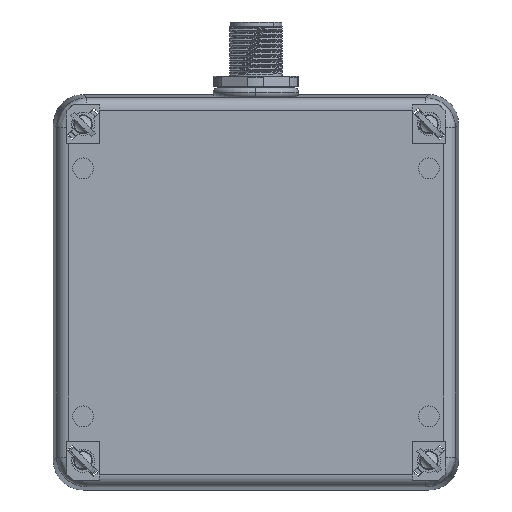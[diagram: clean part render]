
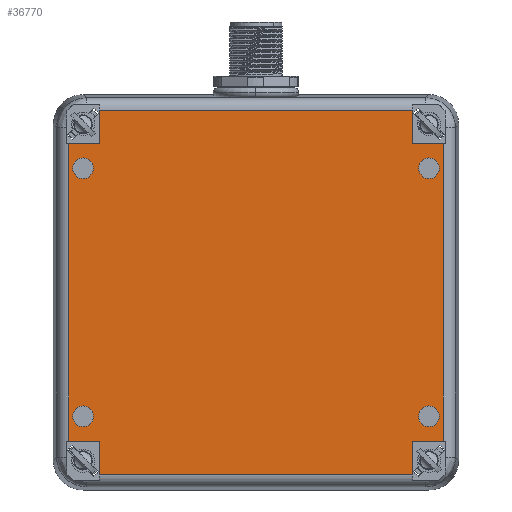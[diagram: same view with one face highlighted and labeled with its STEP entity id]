
A CAD part, front view. The second image highlights one B-rep face of the part: STEP entity #36770.
In plain terms, the highlighted planar face has unit normal (0, -1, 0).
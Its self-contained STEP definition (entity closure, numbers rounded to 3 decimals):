
#201=DIRECTION('',(1.,0.,0.));
#202=VECTOR('',#201,6.095);
#203=CARTESIAN_POINT('',(-37.845,-40.,30.1));
#204=LINE('',#203,#202);
#208=DIRECTION('',(0.,0.,1.));
#209=VECTOR('',#208,6.745);
#210=CARTESIAN_POINT('',(-31.75,-40.,30.1));
#211=LINE('',#210,#209);
#215=DIRECTION('',(-1.,0.,0.));
#216=VECTOR('',#215,63.5);
#217=CARTESIAN_POINT('',(31.75,-40.,36.845));
#218=LINE('',#217,#216);
#222=DIRECTION('',(0.,0.,-1.));
#223=VECTOR('',#222,6.745);
#224=CARTESIAN_POINT('',(31.75,-40.,36.845));
#225=LINE('',#224,#223);
#229=DIRECTION('',(1.,0.,0.));
#230=VECTOR('',#229,6.095);
#231=CARTESIAN_POINT('',(31.75,-40.,30.1));
#232=LINE('',#231,#230);
#236=DIRECTION('',(0.,0.,1.));
#237=VECTOR('',#236,60.2);
#238=CARTESIAN_POINT('',(37.845,-40.,-30.1));
#239=LINE('',#238,#237);
#243=DIRECTION('',(-1.,0.,0.));
#244=VECTOR('',#243,6.095);
#245=CARTESIAN_POINT('',(37.845,-40.,-30.1));
#246=LINE('',#245,#244);
#250=DIRECTION('',(0.,0.,-1.));
#251=VECTOR('',#250,6.745);
#252=CARTESIAN_POINT('',(31.75,-40.,-30.1));
#253=LINE('',#252,#251);
#257=DIRECTION('',(1.,0.,0.));
#258=VECTOR('',#257,63.5);
#259=CARTESIAN_POINT('',(-31.75,-40.,-36.845));
#260=LINE('',#259,#258);
#264=DIRECTION('',(0.,0.,1.));
#265=VECTOR('',#264,6.745);
#266=CARTESIAN_POINT('',(-31.75,-40.,-36.845));
#267=LINE('',#266,#265);
#271=DIRECTION('',(-1.,0.,0.));
#272=VECTOR('',#271,6.095);
#273=CARTESIAN_POINT('',(-31.75,-40.,-30.1));
#274=LINE('',#273,#272);
#278=DIRECTION('',(0.,0.,-1.));
#279=VECTOR('',#278,60.2);
#280=CARTESIAN_POINT('',(-37.845,-40.,30.1));
#281=LINE('',#280,#279);
#285=CARTESIAN_POINT('',(35.,-40.,-25.1));
#286=DIRECTION('',(0.,-1.,0.));
#287=DIRECTION('',(0.,0.,-1.));
#288=AXIS2_PLACEMENT_3D('',#285,#286,#287);
#293=CARTESIAN_POINT('',(35.,-40.,-25.1));
#294=DIRECTION('',(0.,-1.,0.));
#295=DIRECTION('',(0.,0.,1.));
#296=AXIS2_PLACEMENT_3D('',#293,#294,#295);
#301=CARTESIAN_POINT('',(-35.,-40.,25.1));
#302=DIRECTION('',(0.,-1.,0.));
#303=DIRECTION('',(0.,0.,-1.));
#304=AXIS2_PLACEMENT_3D('',#301,#302,#303);
#309=CARTESIAN_POINT('',(-35.,-40.,25.1));
#310=DIRECTION('',(0.,-1.,0.));
#311=DIRECTION('',(0.,0.,1.));
#312=AXIS2_PLACEMENT_3D('',#309,#310,#311);
#317=CARTESIAN_POINT('',(-35.,-40.,-25.1));
#318=DIRECTION('',(0.,-1.,0.));
#319=DIRECTION('',(0.,0.,-1.));
#320=AXIS2_PLACEMENT_3D('',#317,#318,#319);
#325=CARTESIAN_POINT('',(-35.,-40.,-25.1));
#326=DIRECTION('',(0.,-1.,0.));
#327=DIRECTION('',(0.,0.,1.));
#328=AXIS2_PLACEMENT_3D('',#325,#326,#327);
#333=CARTESIAN_POINT('',(35.,-40.,25.1));
#334=DIRECTION('',(0.,-1.,0.));
#335=DIRECTION('',(0.,0.,-1.));
#336=AXIS2_PLACEMENT_3D('',#333,#334,#335);
#341=CARTESIAN_POINT('',(35.,-40.,25.1));
#342=DIRECTION('',(0.,-1.,0.));
#343=DIRECTION('',(0.,0.,1.));
#344=AXIS2_PLACEMENT_3D('',#341,#342,#343);
#33460=CARTESIAN_POINT('',(35.,-40.,-27.2));
#33461=CARTESIAN_POINT('',(35.,-40.,-23.));
#33462=VERTEX_POINT('',#33460);
#33463=VERTEX_POINT('',#33461);
#33464=CARTESIAN_POINT('',(-35.,-40.,23.));
#33465=CARTESIAN_POINT('',(-35.,-40.,27.2));
#33466=VERTEX_POINT('',#33464);
#33467=VERTEX_POINT('',#33465);
#33628=CARTESIAN_POINT('',(-35.,-40.,-27.2));
#33629=CARTESIAN_POINT('',(-35.,-40.,-23.));
#33630=VERTEX_POINT('',#33628);
#33631=VERTEX_POINT('',#33629);
#33632=CARTESIAN_POINT('',(35.,-40.,23.));
#33633=CARTESIAN_POINT('',(35.,-40.,27.2));
#33634=VERTEX_POINT('',#33632);
#33635=VERTEX_POINT('',#33633);
#33712=CARTESIAN_POINT('',(-37.845,-40.,30.1));
#33713=CARTESIAN_POINT('',(-31.75,-40.,30.1));
#33714=VERTEX_POINT('',#33712);
#33715=VERTEX_POINT('',#33713);
#33716=CARTESIAN_POINT('',(-31.75,-40.,36.845));
#33717=VERTEX_POINT('',#33716);
#33756=CARTESIAN_POINT('',(31.75,-40.,36.845));
#33757=CARTESIAN_POINT('',(31.75,-40.,30.1));
#33758=VERTEX_POINT('',#33756);
#33759=VERTEX_POINT('',#33757);
#33760=CARTESIAN_POINT('',(37.845,-40.,30.1));
#33761=VERTEX_POINT('',#33760);
#33762=CARTESIAN_POINT('',(-31.75,-40.,-36.845));
#33763=CARTESIAN_POINT('',(-31.75,-40.,-30.1));
#33764=VERTEX_POINT('',#33762);
#33765=VERTEX_POINT('',#33763);
#33766=CARTESIAN_POINT('',(-37.845,-40.,-30.1));
#33767=VERTEX_POINT('',#33766);
#33768=CARTESIAN_POINT('',(37.845,-40.,-30.1));
#33769=CARTESIAN_POINT('',(31.75,-40.,-30.1));
#33770=VERTEX_POINT('',#33768);
#33771=VERTEX_POINT('',#33769);
#33772=CARTESIAN_POINT('',(31.75,-40.,-36.845));
#33773=VERTEX_POINT('',#33772);
#36715=CARTESIAN_POINT('',(0.,-40.,0.));
#36716=DIRECTION('',(0.,1.,0.));
#36717=DIRECTION('',(1.,0.,0.));
#36718=AXIS2_PLACEMENT_3D('',#36715,#36716,#36717);
#36719=PLANE('',#36718);
#36721=ORIENTED_EDGE('',*,*,#36720,.T.);
#36723=ORIENTED_EDGE('',*,*,#36722,.T.);
#36725=ORIENTED_EDGE('',*,*,#36724,.F.);
#36727=ORIENTED_EDGE('',*,*,#36726,.T.);
#36729=ORIENTED_EDGE('',*,*,#36728,.T.);
#36731=ORIENTED_EDGE('',*,*,#36730,.F.);
#36733=ORIENTED_EDGE('',*,*,#36732,.T.);
#36735=ORIENTED_EDGE('',*,*,#36734,.T.);
#36737=ORIENTED_EDGE('',*,*,#36736,.F.);
#36739=ORIENTED_EDGE('',*,*,#36738,.T.);
#36741=ORIENTED_EDGE('',*,*,#36740,.T.);
#36743=ORIENTED_EDGE('',*,*,#36742,.F.);
#36744=EDGE_LOOP('',(#36721,#36723,#36725,#36727,#36729,#36731,#36733,#36735,
#36737,#36739,#36741,#36743));
#36745=FACE_OUTER_BOUND('',#36744,.F.);
#36747=ORIENTED_EDGE('',*,*,#36746,.T.);
#36749=ORIENTED_EDGE('',*,*,#36748,.T.);
#36750=EDGE_LOOP('',(#36747,#36749));
#36751=FACE_BOUND('',#36750,.F.);
#36753=ORIENTED_EDGE('',*,*,#36752,.T.);
#36755=ORIENTED_EDGE('',*,*,#36754,.T.);
#36756=EDGE_LOOP('',(#36753,#36755));
#36757=FACE_BOUND('',#36756,.F.);
#36759=ORIENTED_EDGE('',*,*,#36758,.T.);
#36761=ORIENTED_EDGE('',*,*,#36760,.T.);
#36762=EDGE_LOOP('',(#36759,#36761));
#36763=FACE_BOUND('',#36762,.F.);
#36765=ORIENTED_EDGE('',*,*,#36764,.T.);
#36767=ORIENTED_EDGE('',*,*,#36766,.T.);
#36768=EDGE_LOOP('',(#36765,#36767));
#36769=FACE_BOUND('',#36768,.F.);
#289=CIRCLE('',#288,2.1);
#297=CIRCLE('',#296,2.1);
#305=CIRCLE('',#304,2.1);
#313=CIRCLE('',#312,2.1);
#321=CIRCLE('',#320,2.1);
#329=CIRCLE('',#328,2.1);
#337=CIRCLE('',#336,2.1);
#345=CIRCLE('',#344,2.1);
#36720=EDGE_CURVE('',#33714,#33715,#204,.T.);
#36722=EDGE_CURVE('',#33715,#33717,#211,.T.);
#36724=EDGE_CURVE('',#33758,#33717,#218,.T.);
#36726=EDGE_CURVE('',#33758,#33759,#225,.T.);
#36728=EDGE_CURVE('',#33759,#33761,#232,.T.);
#36730=EDGE_CURVE('',#33770,#33761,#239,.T.);
#36732=EDGE_CURVE('',#33770,#33771,#246,.T.);
#36734=EDGE_CURVE('',#33771,#33773,#253,.T.);
#36736=EDGE_CURVE('',#33764,#33773,#260,.T.);
#36738=EDGE_CURVE('',#33764,#33765,#267,.T.);
#36740=EDGE_CURVE('',#33765,#33767,#274,.T.);
#36742=EDGE_CURVE('',#33714,#33767,#281,.T.);
#36746=EDGE_CURVE('',#33462,#33463,#289,.T.);
#36748=EDGE_CURVE('',#33463,#33462,#297,.T.);
#36752=EDGE_CURVE('',#33466,#33467,#305,.T.);
#36754=EDGE_CURVE('',#33467,#33466,#313,.T.);
#36758=EDGE_CURVE('',#33630,#33631,#321,.T.);
#36760=EDGE_CURVE('',#33631,#33630,#329,.T.);
#36764=EDGE_CURVE('',#33634,#33635,#337,.T.);
#36766=EDGE_CURVE('',#33635,#33634,#345,.T.);
#36770=ADVANCED_FACE('',(#36745,#36751,#36757,#36763,#36769),#36719,.F.);
